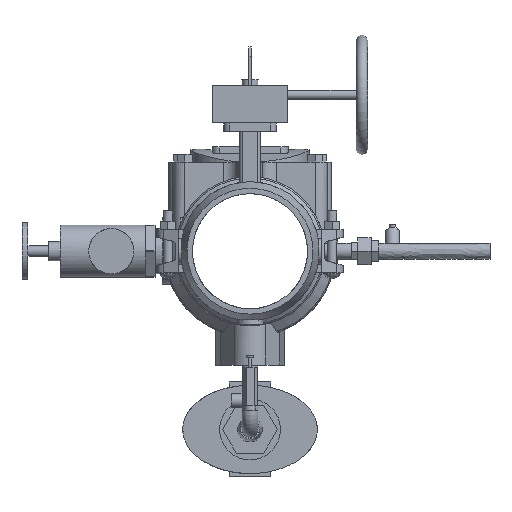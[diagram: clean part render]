
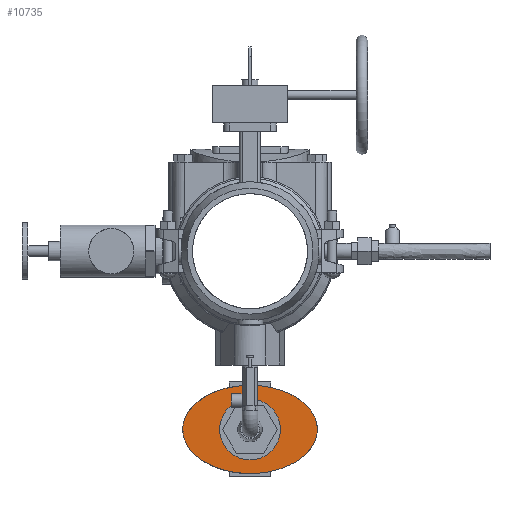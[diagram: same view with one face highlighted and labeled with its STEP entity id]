
A CAD part, front view. The second image highlights one B-rep face of the part: STEP entity #10735.
In plain terms, the highlighted planar face has unit normal (0, -1, 0).
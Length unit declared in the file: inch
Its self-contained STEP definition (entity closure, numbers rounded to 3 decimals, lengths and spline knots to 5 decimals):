
#252=ELLIPSE('',#11806,3.54331,2.32283);
#351=FACE_BOUND('',#1804,.T.);
#650=PLANE('',#11805);
#1146=FACE_OUTER_BOUND('',#1803,.T.);
#1803=EDGE_LOOP('',(#8656));
#1804=EDGE_LOOP('',(#8657));
#4035=CIRCLE('',#11807,1.6);
#4838=VERTEX_POINT('',#18406);
#4839=VERTEX_POINT('',#18408);
#6168=EDGE_CURVE('',#4838,#4838,#252,.T.);
#6169=EDGE_CURVE('',#4839,#4839,#4035,.T.);
#8656=ORIENTED_EDGE('',*,*,#6168,.T.);
#8657=ORIENTED_EDGE('',*,*,#6169,.T.);
#10735=ADVANCED_FACE('',(#1146,#351),#650,.F.);
#11805=AXIS2_PLACEMENT_3D('',#18405,#14176,#14177);
#11806=AXIS2_PLACEMENT_3D('',#18407,#14178,#14179);
#11807=AXIS2_PLACEMENT_3D('',#18409,#14180,#14181);
#14176=DIRECTION('center_axis',(0.,1.,0.));
#14177=DIRECTION('ref_axis',(0.,0.,1.));
#14178=DIRECTION('center_axis',(0.,-1.,0.));
#14179=DIRECTION('ref_axis',(-1.,0.,0.));
#14180=DIRECTION('center_axis',(0.,1.,0.));
#14181=DIRECTION('ref_axis',(-1.,0.,0.));
#18405=CARTESIAN_POINT('Origin',(0.,-0.161,-9.38));
#18406=CARTESIAN_POINT('',(3.54331,-0.161,-9.38));
#18407=CARTESIAN_POINT('Origin',(0.,-0.161,-9.38));
#18408=CARTESIAN_POINT('',(1.6,-0.161,-9.38));
#18409=CARTESIAN_POINT('Origin',(0.,-0.161,-9.38));
